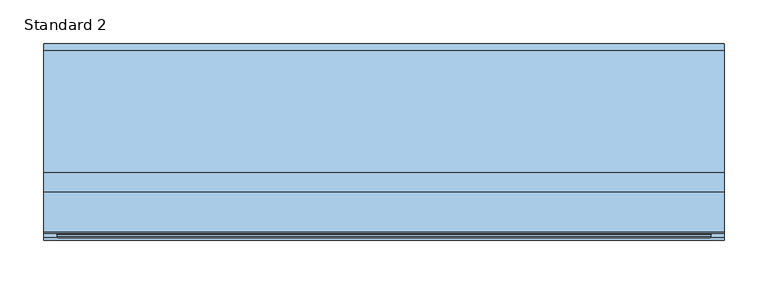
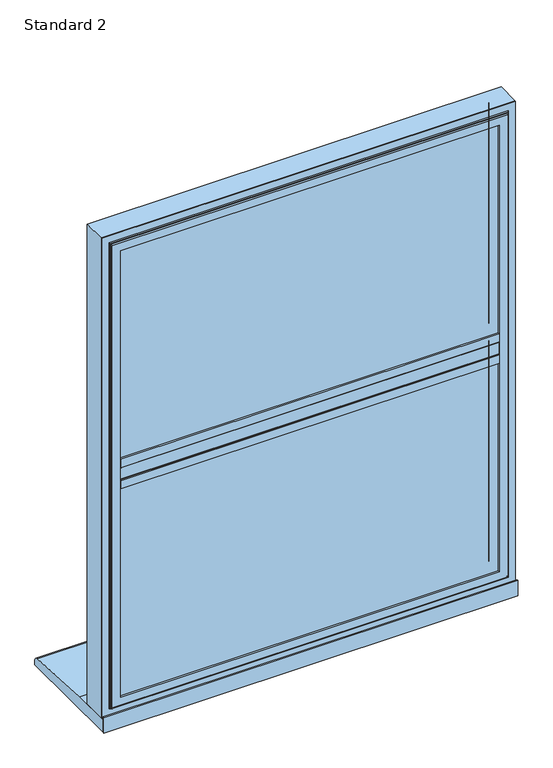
"""IFC4 building model written with IfcOpenShell, lengths in millimetres: window geometry, SMARTS_AlithermHeritage : Standard 2."""

from ifc_helpers import new_model, si_unit, point, frame, frame_2d, origin, place, context, project, spatial, polyline, circle_curve, ellipse_curve, trimmed, segment, composite_curve, outline, extrude, faceted_brep, source, transform, mapped, element, save
from ifc_brep_helpers import plane_surface, cylinder_surface, revolved_surface, advanced_brep


def standard_2_242662c3(model_context):
    return source(origin(), model_context, "Body", "SolidModel", [
        extrude(outline(polyline([(372.3058544, 95.2798432), (372.3058544, 47.279476), (-372.3058544, 47.279476), (-372.3058544, 95.2798432), (372.3058544, 95.2798432)])), frame((0.0, 0.0, 1098.8058544), z_axis=(0.0, 0.0, 1.0), x_axis=(1.0, 0.0, 0.0)), (0.0, 0.0, 1.0), 27.3882911),
        extrude(outline(composite_curve([segment(polyline([(47.279476, 1083.5), (43.2798432, 1083.5), (43.2798432, 1099.5)]), True, "CONTINUOUS"), segment(trimmed(circle_curve(frame_2d((44.2798432, 1099.5)), 1.0), [point((43.2798432, 1099.5))], [point((44.2798432, 1100.5))], False, "CARTESIAN"), True, "CONTINUOUS"), segment(polyline([(44.2798432, 1100.5), (45.7798432, 1100.5), (45.7798432, 1124.5), (44.2798432, 1124.5)]), True, "CONTINUOUS"), segment(trimmed(circle_curve(frame_2d((44.2798432, 1125.5)), 1.0), [point((44.2798432, 1124.5))], [point((43.2798432, 1125.5))], False, "CARTESIAN"), True, "CONTINUOUS"), segment(polyline([(43.2798432, 1125.5), (43.2798432, 1141.5), (47.279476, 1141.5), (47.279476, 1083.5)]), True, "CONTINUOUS")], self_intersect=False)), frame((-357.0, 0.0, 0.0), z_axis=(1.0, 0.0, 0.0), x_axis=(0.0, 1.0, 0.0)), (0.0, 0.0, 1.0), 714.0),
        extrude(outline(polyline([(-367.0, 75.2798432), (367.0, 75.2798432), (367.0, 71.2798432), (-367.0, 71.2798432), (-367.0, 75.2798432)])), frame((0.0, 0.0, 658.0), z_axis=(0.0, 0.0, 1.0), x_axis=(1.0, 0.0, 0.0)), (0.0, 0.0, 1.0), 435.5),
        extrude(outline(polyline([(-367.0, 55.2798432), (367.0, 55.2798432), (367.0, 51.2798432), (-367.0, 51.2798432), (-367.0, 55.2798432)])), frame((0.0, 0.0, 658.0), z_axis=(0.0, 0.0, 1.0), x_axis=(1.0, 0.0, 0.0)), (0.0, 0.0, 1.0), 435.5),
        extrude(outline(polyline([(1093.5, -367.0), (658.0, -367.0), (658.0, 367.0), (1093.5, 367.0), (1093.5, -367.0)]), holes=[polyline([(1083.5, 357.0), (668.0, 357.0), (668.0, -357.0), (1083.5, -357.0), (1083.5, 357.0)])]), frame((0.0, 55.2798432, 0.0), z_axis=(0.0, 1.0, 0.0), x_axis=(0.0, 0.0, 1.0)), (0.0, 0.0, 1.0), 16.0),
        faceted_brep([(366.8148849, 95.2798432, 1093.3148849), (357.0, 78.2798098, 1083.5), (-357.0, 78.2798098, 1083.5), (-366.8148849, 95.2798432, 1093.3148849), (372.3702676, 78.2798098, 1098.8702676), (372.3702676, 95.2798432, 1098.8702676), (-372.3702676, 95.2798432, 1098.8702676), (-372.3702676, 78.2798098, 1098.8702676), (-372.3702676, 78.2798098, 652.6297324), (-372.3702676, 95.2798432, 652.6297324), (372.3702676, 95.2798432, 652.6297324), (372.3702676, 78.2798098, 652.6297324), (-366.8148849, 95.2798432, 658.1851151), (366.8148849, 95.2798432, 658.1851151), (357.0, 78.2798098, 668.0), (-357.0, 78.2798098, 668.0)], [[[0, 1, 2, 3]], [[4, 5, 6, 7]], [[8, 9, 10, 11]], [[5, 10, 9, 6], [3, 12, 13, 0]], [[7, 8, 11, 4], [1, 14, 15, 2]], [[3, 2, 15, 12]], [[7, 6, 9, 8]], [[12, 15, 14, 13]], [[13, 14, 1, 0]], [[11, 10, 5, 4]]]),
        extrude(outline(polyline([(1590.0, 390.0), (1590.0, -390.0), (635.0, -390.0), (635.0, 390.0), (1590.0, 390.0)]), holes=[polyline([(652.7000182, 372.2999818), (652.7000182, -372.2999818), (1572.2999818, -372.2999818), (1572.2999818, 372.2999818), (652.7000182, 372.2999818)])]), frame((0.0, 50.279857, 0.0), z_axis=(0.0, 1.0, 0.0), x_axis=(0.0, 0.0, 1.0)), (0.0, 0.0, 1.0), 44.9999962),
        advanced_brep(
        [(357.0, 43.2798432, 1557.0), (357.0, 47.2798432, 1557.0), (357.0, 47.2798432, 668.0), (357.0, 43.2798432, 668.0), (390.0, 50.279857, 1590.0), (390.0, 48.279857, 1590.0), (390.0, 48.279857, 635.0), (390.0, 50.279857, 635.0), (372.4999818, 43.2798432, 1572.4999818), (-372.4999818, 43.2798432, 1572.4999818), (-372.4999818, 43.2798432, 652.5000182), (372.4999818, 43.2798432, 652.5000182), (-357.0, 43.2798432, 668.0), (-357.0, 43.2798432, 1557.0), (-390.0, 50.279857, 1590.0), (-390.0, 48.279857, 1590.0), (-390.0, 50.279857, 635.0), (372.2999818, 50.279857, 1572.2999818), (-372.2999818, 50.279857, 1572.2999818), (-372.2999818, 50.279857, 652.7000182), (372.2999818, 50.279857, 652.7000182), (-357.0, 47.2798432, 1557.0), (-357.0, 47.2798432, 668.0), (-390.0, 48.279857, 635.0), (-372.2999818, 47.2798432, 1572.2999818), (372.2999818, 47.2798432, 1572.2999818), (372.2999818, 47.2798432, 652.7000182), (374.4999818, 46.779857, 650.5000182), (374.4999818, 45.2798432, 650.5000182), (-374.4999818, 45.2798432, 650.5000182), (-374.4999818, 46.779857, 650.5000182), (374.4999818, 46.779857, 1574.4999818), (374.4999818, 45.2798432, 1574.4999818), (-372.2999818, 47.2798432, 652.7000182), (-374.4999818, 45.2798432, 1574.4999818), (-374.4999818, 46.779857, 1574.4999818), (375.9999818, 48.279857, 1575.9999818), (375.9999818, 48.279857, 649.0000182), (-375.9999818, 48.279857, 649.0000182), (-375.9999818, 48.279857, 1575.9999818)],
        [
            (0, 1),
            (1, 2),
            (2, 3),
            (3, 0),
            (4, 5),
            (5, 6),
            (6, 7),
            (7, 4),
            (8, 9),
            (9, 10),
            (10, 11),
            (11, 8),
            (3, 12),
            (12, 13),
            (13, 0),
            (14, 15),
            (15, 5),
            (4, 14),
            (7, 16),
            (16, 14),
            (17, 18),
            (18, 19),
            (19, 20),
            (20, 17),
            (13, 21),
            (21, 1),
            (2, 22),
            (22, 12),
            (22, 21),
            (6, 23),
            (23, 16),
            (23, 15),
            (24, 18),
            (17, 25),
            (25, 24),
            (20, 26),
            (26, 25),
            (27, 28),
            (28, 29),
            (29, 30),
            (30, 27),
            (31, 32),
            (32, 28),
            (27, 31),
            (19, 33),
            (33, 26),
            (24, 33),
            (29, 34),
            (34, 35),
            (35, 30),
            (34, 32),
            (31, 35),
            (36, 31, ellipse_curve(frame((375.9999818, 46.779857, 1575.9999818), z_axis=(-0.7071067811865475, 0.0, 0.7071067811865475), x_axis=(-0.7071067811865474, 0.0, -0.7071067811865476)), 2.1213203, 1.5)),
            (27, 37, ellipse_curve(frame((375.9999818, 46.779857, 649.0000182), z_axis=(-0.7071067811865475, 0.0, -0.7071067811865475), x_axis=(0.7071067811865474, 0.0, -0.7071067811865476)), 2.1213203, 1.5)),
            (37, 36),
            (30, 38, ellipse_curve(frame((-375.9999818, 46.779857, 649.0000182), z_axis=(-0.7071067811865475, 0.0, 0.7071067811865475), x_axis=(-0.7071067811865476, 0.0, -0.7071067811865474)), 2.1213203, 1.5)),
            (38, 37),
            (35, 39, ellipse_curve(frame((-375.9999818, 46.779857, 1575.9999818), z_axis=(0.7071067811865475, 0.0, 0.7071067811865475), x_axis=(-0.7071067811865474, 0.0, 0.7071067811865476)), 2.1213203, 1.5)),
            (39, 38),
            (36, 39),
            (32, 8, ellipse_curve(frame((372.4999818, 45.2798432, 1572.4999818), z_axis=(0.7071067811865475, 0.0, -0.7071067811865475), x_axis=(0.7071067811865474, 0.0, 0.7071067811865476)), 2.8284271, 2.0)),
            (11, 28, ellipse_curve(frame((372.4999818, 45.2798432, 652.5000182), z_axis=(0.7071067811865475, 0.0, 0.7071067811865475), x_axis=(-0.7071067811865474, 0.0, 0.7071067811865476)), 2.8284271, 2.0)),
            (10, 29, ellipse_curve(frame((-372.4999818, 45.2798432, 652.5000182), z_axis=(0.7071067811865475, 0.0, -0.7071067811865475), x_axis=(0.7071067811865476, 0.0, 0.7071067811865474)), 2.8284271, 2.0)),
            (9, 34, ellipse_curve(frame((-372.4999818, 45.2798432, 1572.4999818), z_axis=(-0.7071067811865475, 0.0, -0.7071067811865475), x_axis=(0.7071067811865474, 0.0, -0.7071067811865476)), 2.8284271, 2.0)),
        ],
        [
            plane_surface(frame((357.0, 47.2798432, 1557.0), z_axis=(-1.0, 0.0, 0.0), x_axis=(0.0, 0.0, -1.0))),
            plane_surface(frame((390.0, 48.279857, 1590.0), z_axis=(1.0, 0.0, 0.0), x_axis=(0.0, 0.0, -1.0))),
            plane_surface(frame((-357.0, 43.2798432, 1557.0), z_axis=(0.0, -1.0, 0.0), x_axis=(1.0, 0.0, 0.0))),
            plane_surface(frame((-390.0, 48.279857, 1590.0), z_axis=(0.0, 0.0, 1.0), x_axis=(1.0, 0.0, 0.0))),
            plane_surface(frame((-390.0, 50.279857, 1590.0), z_axis=(0.0, 1.0, 0.0), x_axis=(1.0, 0.0, 0.0))),
            plane_surface(frame((-357.0, 47.2798432, 1557.0), z_axis=(0.0, 0.0, -1.0), x_axis=(1.0, 0.0, 0.0))),
            plane_surface(frame((357.0, 47.2798432, 668.0), z_axis=(0.0, 0.0, 1.0), x_axis=(-1.0, 0.0, 0.0))),
            plane_surface(frame((-357.0, 47.2798432, 668.0), z_axis=(1.0, 0.0, 0.0), x_axis=(0.0, 0.0, 1.0))),
            plane_surface(frame((390.0, 48.279857, 635.0), z_axis=(0.0, 0.0, -1.0), x_axis=(-1.0, 0.0, 0.0))),
            plane_surface(frame((-390.0, 48.279857, 635.0), z_axis=(-1.0, 0.0, 0.0), x_axis=(0.0, 0.0, 1.0))),
            plane_surface(frame((-372.2999818, 50.279857, 1572.2999818), z_axis=(0.0, 0.0, -1.0), x_axis=(1.0, 0.0, 0.0))),
            plane_surface(frame((372.2999818, 50.279857, 1572.2999818), z_axis=(-1.0, 0.0, 0.0), x_axis=(0.0, 0.0, -1.0))),
            plane_surface(frame((374.4999818, 45.2798432, 650.5000182), z_axis=(0.0, 0.0, -1.0), x_axis=(-1.0, 0.0, 0.0))),
            plane_surface(frame((374.4999818, 45.2798432, 1574.4999818), z_axis=(1.0, 0.0, 0.0), x_axis=(0.0, 0.0, -1.0))),
            plane_surface(frame((372.2999818, 50.279857, 652.7000182), z_axis=(0.0, 0.0, 1.0), x_axis=(-1.0, 0.0, 0.0))),
            plane_surface(frame((-372.2999818, 50.279857, 652.7000182), z_axis=(1.0, 0.0, 0.0), x_axis=(0.0, 0.0, 1.0))),
            plane_surface(frame((-374.4999818, 45.2798432, 650.5000182), z_axis=(-1.0, 0.0, 0.0), x_axis=(0.0, 0.0, 1.0))),
            plane_surface(frame((-372.2999818, 47.2798432, 1572.2999818), z_axis=(0.0, 1.0, 0.0), x_axis=(1.0, 0.0, 0.0))),
            plane_surface(frame((-374.4999818, 45.2798432, 1574.4999818), z_axis=(0.0, 0.0, 1.0), x_axis=(1.0, 0.0, 0.0))),
            revolved_surface(polyline([(374.4999818, 46.779857, 647.5000182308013), (374.4999818, 46.779857, 1577.4999817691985)]), (375.9999818, 46.779857, 1590.0), (0.0, 0.0, -1.0)),
            revolved_surface(polyline([(-377.4999817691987, 46.779857, 650.5000182), (377.49998176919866, 46.779857, 650.5000182)]), (390.0, 46.779857, 649.0000182), (-1.0, 0.0, 0.0)),
            revolved_surface(polyline([(-374.4999818, 46.779857, 1577.4999817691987), (-374.4999818, 46.779857, 647.5000182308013)]), (-375.9999818, 46.779857, 635.0), (0.0, 0.0, 1.0)),
            revolved_surface(polyline([(377.4999817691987, 46.779857, 1574.4999818), (-377.49998176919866, 46.779857, 1574.4999818)]), (-390.0, 46.779857, 1575.9999818), (1.0, 0.0, 0.0)),
            plane_surface(frame((-375.9999818, 48.279857, 1575.9999818), z_axis=(0.0, -1.0, 0.0), x_axis=(1.0, 0.0, 0.0))),
            cylinder_surface(frame((372.4999818, 45.2798432, 1590.0), z_axis=(0.0, 0.0, 1.0), x_axis=(-1.0, 0.0, 0.0)), 2.0),
            cylinder_surface(frame((390.0, 45.2798432, 652.5000182), z_axis=(1.0, 0.0, 0.0), x_axis=(0.0, 0.0, 1.0)), 2.0),
            cylinder_surface(frame((-372.4999818, 45.2798432, 635.0), z_axis=(0.0, 0.0, -1.0), x_axis=(1.0, 0.0, 0.0)), 2.0),
            cylinder_surface(frame((-390.0, 45.2798432, 1572.4999818), z_axis=(-1.0, 0.0, 0.0), x_axis=(0.0, 0.0, -1.0)), 2.0),
        ],
        [
            (0, [[1, 2, 3, 4]]),
            (1, [[5, 6, 7, 8]]),
            (2, [[9, 10, 11, 12], [13, 14, 15, -4]]),
            (3, [[16, 17, -5, 18]]),
            (4, [[19, 20, -18, -8], [21, 22, 23, 24]]),
            (5, [[25, 26, -1, -15]]),
            (6, [[-3, 27, 28, -13]]),
            (7, [[-28, 29, -25, -14]]),
            (8, [[-7, 30, 31, -19]]),
            (9, [[-31, 32, -16, -20]]),
            (10, [[33, -21, 34, 35]]),
            (11, [[-34, -24, 36, 37]]),
            (12, [[38, 39, 40, 41]]),
            (13, [[42, 43, -38, 44]]),
            (14, [[-36, -23, 45, 46]]),
            (15, [[-45, -22, -33, 47]]),
            (16, [[-40, 48, 49, 50]]),
            (17, [[-46, -47, -35, -37], [-26, -29, -27, -2]]),
            (18, [[-49, 51, -42, 52]]),
            (19, [[53, -44, 54, 55]]),
            (20, [[-54, -41, 56, 57]]),
            (21, [[-56, -50, 58, 59]]),
            (22, [[-58, -52, -53, 60]]),
            (23, [[-17, -32, -30, -6], [-57, -59, -60, -55]]),
            (24, [[61, -12, 62, -43]]),
            (25, [[-62, -11, 63, -39]]),
            (26, [[-63, -10, 64, -48]]),
            (27, [[-64, -9, -61, -51]]),
        ],
    ),
        extrude(outline(polyline([(-367.0, 75.2798432), (367.0, 75.2798432), (367.0, 71.2798432), (-367.0, 71.2798432), (-367.0, 75.2798432)])), frame((0.0, 0.0, 1131.5), z_axis=(0.0, 0.0, 1.0), x_axis=(1.0, 0.0, 0.0)), (0.0, 0.0, 1.0), 435.5),
        extrude(outline(polyline([(-367.0, 55.2798432), (367.0, 55.2798432), (367.0, 51.2798432), (-367.0, 51.2798432), (-367.0, 55.2798432)])), frame((0.0, 0.0, 1131.5), z_axis=(0.0, 0.0, 1.0), x_axis=(1.0, 0.0, 0.0)), (0.0, 0.0, 1.0), 435.5),
        extrude(outline(polyline([(1567.0, -367.0), (1131.5, -367.0), (1131.5, 367.0), (1567.0, 367.0), (1567.0, -367.0)]), holes=[polyline([(1557.0, 357.0), (1141.5, 357.0), (1141.5, -357.0), (1557.0, -357.0), (1557.0, 357.0)])]), frame((0.0, 55.2798432, 0.0), z_axis=(0.0, 1.0, 0.0), x_axis=(0.0, 0.0, 1.0)), (0.0, 0.0, 1.0), 16.0),
        faceted_brep([(366.8148849, 95.2798432, 1566.8148849), (357.0, 78.2798098, 1557.0), (-357.0, 78.2798098, 1557.0), (-366.8148849, 95.2798432, 1566.8148849), (372.3702676, 78.2798098, 1572.3702676), (372.3702676, 95.2798432, 1572.3702676), (-372.3702676, 95.2798432, 1572.3702676), (-372.3702676, 78.2798098, 1572.3702676), (-372.3702676, 78.2798098, 1126.1297324), (-372.3702676, 95.2798432, 1126.1297324), (372.3702676, 95.2798432, 1126.1297324), (372.3702676, 78.2798098, 1126.1297324), (-366.8148849, 95.2798432, 1131.6851151), (366.8148849, 95.2798432, 1131.6851151), (357.0, 78.2798098, 1141.5), (-357.0, 78.2798098, 1141.5)], [[[0, 1, 2, 3]], [[4, 5, 6, 7]], [[8, 9, 10, 11]], [[5, 10, 9, 6], [3, 12, 13, 0]], [[7, 8, 11, 4], [1, 14, 15, 2]], [[3, 2, 15, 12]], [[7, 6, 9, 8]], [[12, 15, 14, 13]], [[13, 14, 1, 0]], [[11, 10, 5, 4]]]),
        extrude(outline(polyline([(390.0, 43.2798432), (390.0, 40.7798432), (-390.0, 40.7798432), (-390.0, 43.2798432), (390.0, 43.2798432)])), frame((0.0, 0.0, 610.0), z_axis=(0.0, 0.0, 1.0), x_axis=(1.0, 0.0, 0.0)), (0.0, 0.0, 1.0), 31.0),
        extrude(outline(composite_curve([segment(polyline([(265.7798432, 610.0), (43.2798432, 610.0), (43.2798432, 635.0), (118.7798432, 635.0), (258.4770891, 625.9276664)]), True, "CONTINUOUS"), segment(trimmed(circle_curve(frame_2d((257.7798432, 617.9581088)), 8.0), [point((258.4770891, 625.9276664))], [point((265.7798432, 617.9581088))], False, "CARTESIAN"), True, "CONTINUOUS"), segment(polyline([(265.7798432, 617.9581088), (265.7798432, 610.0)]), True, "CONTINUOUS")], self_intersect=False)), frame((-390.0, 0.0, 0.0), z_axis=(1.0, 0.0, 0.0), x_axis=(0.0, 1.0, 0.0)), (0.0, 0.0, 1.0), 780.0),
    ])


if __name__ == "__main__":
    model = new_model("IFC4")
    model_context = context("Model", 3, world=origin())
    ifc_project = project(units=[si_unit("LENGTHUNIT", "METRE", prefix="MILLI")], contexts=[model_context])
    site = spatial("IfcSite", under=ifc_project)
    building = spatial("IfcBuilding", under=site)
    placement = place(None, origin())
    standard_2_shape = standard_2_242662c3(model_context)
    element("IfcWindow", 1, ObjectType="SMARTS_AlithermHeritage : Standard 2", at=placement, inside=building, context=model_context, shape_type="MappedRepresentation", body=[
        mapped(standard_2_shape, transform((0.0, 0.0, 0.0), x_axis=(1.0, 0.0, 0.0), y_axis=(0.0, 1.0, 0.0), z_axis=(0.0, 0.0, 1.0))),
    ])
    save(model, "model.ifc")
